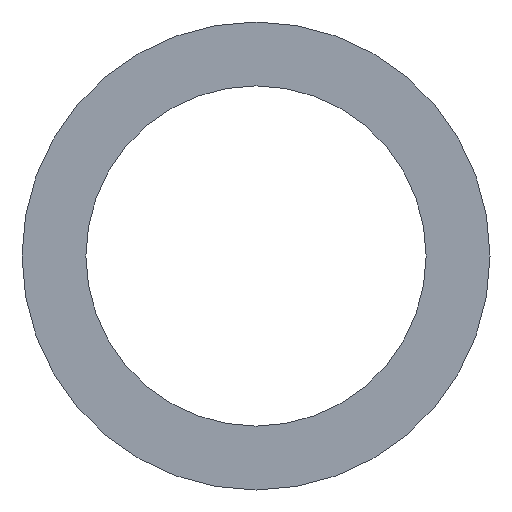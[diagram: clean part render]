
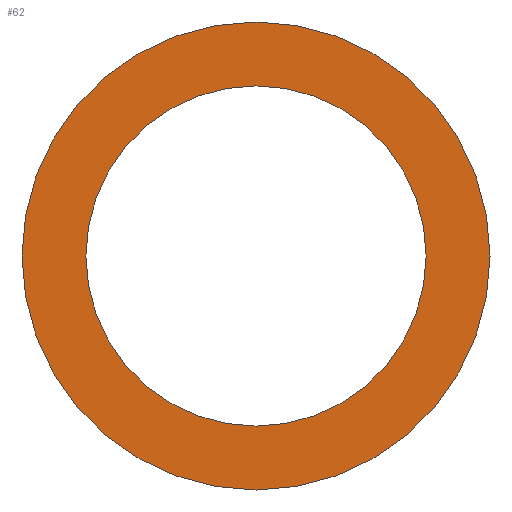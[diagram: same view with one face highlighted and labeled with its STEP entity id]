
A CAD part, front view. The second image highlights one B-rep face of the part: STEP entity #62.
In plain terms, the highlighted planar face has unit normal (0, -1, 0).
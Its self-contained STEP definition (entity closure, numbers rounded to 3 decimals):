
#20=PLANE('',#83);
#26=ORIENTED_EDGE('',*,*,#30,.T.);
#27=ORIENTED_EDGE('',*,*,#32,.F.);
#30=EDGE_CURVE('',#34,#34,#38,.T.);
#32=EDGE_CURVE('',#36,#36,#40,.T.);
#34=VERTEX_POINT('',#106);
#36=VERTEX_POINT('',#111);
#38=CIRCLE('',#78,410.);
#40=CIRCLE('',#81,564.);
#46=EDGE_LOOP('',(#26));
#47=EDGE_LOOP('',(#27));
#54=FACE_BOUND('',#46,.T.);
#55=FACE_BOUND('',#47,.T.);
#62=ADVANCED_FACE('',(#54,#55),#20,.F.);
#78=AXIS2_PLACEMENT_3D('',#105,#89,#90);
#81=AXIS2_PLACEMENT_3D('',#110,#95,#96);
#83=AXIS2_PLACEMENT_3D('',#114,#99,#100);
#89=DIRECTION('',(0.,1.,0.));
#90=DIRECTION('',(1.,0.,0.));
#95=DIRECTION('',(0.,1.,0.));
#96=DIRECTION('',(1.,0.,0.));
#99=DIRECTION('',(0.,1.,0.));
#100=DIRECTION('',(0.,0.,1.));
#105=CARTESIAN_POINT('',(0.,-1.5,0.));
#106=CARTESIAN_POINT('',(410.,-1.5,0.));
#110=CARTESIAN_POINT('',(0.,-1.5,0.));
#111=CARTESIAN_POINT('',(564.,-1.5,0.));
#114=CARTESIAN_POINT('',(0.,-1.5,0.));
